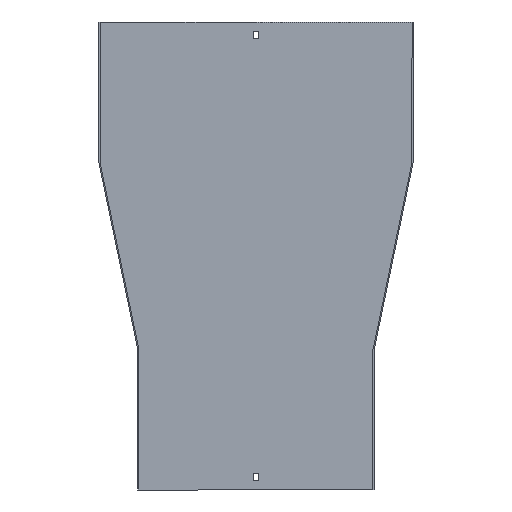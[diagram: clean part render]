
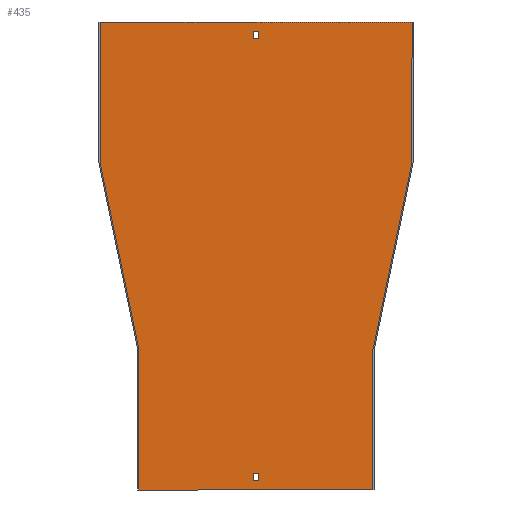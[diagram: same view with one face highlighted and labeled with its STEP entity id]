
A CAD part, front view. The second image highlights one B-rep face of the part: STEP entity #435.
In plain terms, the highlighted planar face has unit normal (0, -1, 0).
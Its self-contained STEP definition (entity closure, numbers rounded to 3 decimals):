
#5 = DIRECTION ( 'NONE',  ( -0.204, 0., 0.979 ) ) ;
#13 = CARTESIAN_POINT ( 'NONE',  ( 0., -1.5, -579. ) ) ;
#34 = EDGE_LOOP ( 'NONE', ( #683, #297, #187, #107, #530, #716, #533, #342 ) ) ;
#37 = EDGE_CURVE ( 'NONE', #273, #144, #723, .T. ) ;
#41 = CARTESIAN_POINT ( 'NONE',  ( 200., -1.5, -180. ) ) ;
#42 = LINE ( 'NONE', #179, #282 ) ;
#46 = VERTEX_POINT ( 'NONE', #265 ) ;
#56 = EDGE_CURVE ( 'NONE', #643, #89, #126, .T. ) ;
#60 = VECTOR ( 'NONE', #5, 1000. ) ;
#62 = CARTESIAN_POINT ( 'NONE',  ( 0., -1.5, -21. ) ) ;
#84 = CARTESIAN_POINT ( 'NONE',  ( -200., -1.5, -179.845 ) ) ;
#87 = DIRECTION ( 'NONE',  ( 0., 0., -1. ) ) ;
#89 = VERTEX_POINT ( 'NONE', #521 ) ;
#92 = CARTESIAN_POINT ( 'NONE',  ( 150.032, -1.5, -419.694 ) ) ;
#95 = LINE ( 'NONE', #41, #141 ) ;
#103 = VECTOR ( 'NONE', #776, 1000. ) ;
#107 = ORIENTED_EDGE ( 'NONE', *, *, #137, .F. ) ;
#111 = EDGE_CURVE ( 'NONE', #842, #273, #713, .T. ) ;
#125 = LINE ( 'NONE', #594, #103 ) ;
#126 = LINE ( 'NONE', #62, #146 ) ;
#128 = EDGE_CURVE ( 'NONE', #136, #825, #414, .T. ) ;
#132 = VERTEX_POINT ( 'NONE', #600 ) ;
#136 = VERTEX_POINT ( 'NONE', #84 ) ;
#137 = EDGE_CURVE ( 'NONE', #46, #411, #475, .T. ) ;
#141 = VECTOR ( 'NONE', #813, 1000. ) ;
#144 = VERTEX_POINT ( 'NONE', #349 ) ;
#146 = VECTOR ( 'NONE', #331, 1000. ) ;
#147 = DIRECTION ( 'NONE',  ( 0., 0., 1. ) ) ;
#148 = CARTESIAN_POINT ( 'NONE',  ( 201.5, -1.5, 0. ) ) ;
#154 = CARTESIAN_POINT ( 'NONE',  ( 200., -1.5, -179.845 ) ) ;
#158 = DIRECTION ( 'NONE',  ( 0., 0., -1. ) ) ;
#163 = CARTESIAN_POINT ( 'NONE',  ( 3.25, -1.5, -588. ) ) ;
#165 = VERTEX_POINT ( 'NONE', #731 ) ;
#168 = LINE ( 'NONE', #92, #230 ) ;
#179 = CARTESIAN_POINT ( 'NONE',  ( 150., -1.5, -600. ) ) ;
#187 = ORIENTED_EDGE ( 'NONE', *, *, #323, .F. ) ;
#211 = VERTEX_POINT ( 'NONE', #607 ) ;
#224 = CARTESIAN_POINT ( 'NONE',  ( -3.25, -1.5, -579. ) ) ;
#230 = VECTOR ( 'NONE', #822, 1000. ) ;
#237 = LINE ( 'NONE', #755, #771 ) ;
#242 = EDGE_CURVE ( 'NONE', #828, #132, #168, .T. ) ;
#261 = DIRECTION ( 'NONE',  ( -1., 0., 0. ) ) ;
#265 = CARTESIAN_POINT ( 'NONE',  ( -150., -1.5, -600. ) ) ;
#273 = VERTEX_POINT ( 'NONE', #163 ) ;
#275 = DIRECTION ( 'NONE',  ( 0., -1., 0. ) ) ;
#282 = VECTOR ( 'NONE', #566, 1000. ) ;
#285 = PLANE ( 'NONE',  #304 ) ;
#297 = ORIENTED_EDGE ( 'NONE', *, *, #128, .F. ) ;
#298 = EDGE_CURVE ( 'NONE', #165, #828, #95, .T. ) ;
#301 = VECTOR ( 'NONE', #415, 1000. ) ;
#304 = AXIS2_PLACEMENT_3D ( 'NONE', #746, #275, #617 ) ;
#323 = EDGE_CURVE ( 'NONE', #411, #136, #544, .T. ) ;
#331 = DIRECTION ( 'NONE',  ( 1., 0., 0. ) ) ;
#332 = ORIENTED_EDGE ( 'NONE', *, *, #56, .F. ) ;
#341 = DIRECTION ( 'NONE',  ( 1., 0., 0. ) ) ;
#342 = ORIENTED_EDGE ( 'NONE', *, *, #298, .F. ) ;
#345 = LINE ( 'NONE', #13, #301 ) ;
#349 = CARTESIAN_POINT ( 'NONE',  ( -3.25, -1.5, -588. ) ) ;
#355 = FACE_BOUND ( 'NONE', #573, .T. ) ;
#357 = EDGE_CURVE ( 'NONE', #825, #165, #547, .T. ) ;
#368 = VECTOR ( 'NONE', #158, 1000. ) ;
#376 = EDGE_LOOP ( 'NONE', ( #561, #379, #668, #416 ) ) ;
#379 = ORIENTED_EDGE ( 'NONE', *, *, #606, .T. ) ;
#391 = VERTEX_POINT ( 'NONE', #810 ) ;
#401 = CARTESIAN_POINT ( 'NONE',  ( -200.032, -1.5, -179.694 ) ) ;
#406 = EDGE_CURVE ( 'NONE', #786, #842, #345, .T. ) ;
#411 = VERTEX_POINT ( 'NONE', #799 ) ;
#414 = LINE ( 'NONE', #676, #808 ) ;
#415 = DIRECTION ( 'NONE',  ( 1., 0., 0. ) ) ;
#416 = ORIENTED_EDGE ( 'NONE', *, *, #111, .T. ) ;
#418 = CARTESIAN_POINT ( 'NONE',  ( -150., -1.5, -420. ) ) ;
#434 = ORIENTED_EDGE ( 'NONE', *, *, #565, .F. ) ;
#435 = ADVANCED_FACE ( 'NONE', ( #355, #612, #667 ), #285, .T. ) ;
#446 = LINE ( 'NONE', #518, #512 ) ;
#450 = CARTESIAN_POINT ( 'NONE',  ( -3.25, -1.5, -21. ) ) ;
#471 = CARTESIAN_POINT ( 'NONE',  ( 3.25, -1.5, 0. ) ) ;
#475 = LINE ( 'NONE', #418, #658 ) ;
#485 = EDGE_CURVE ( 'NONE', #132, #623, #42, .T. ) ;
#494 = DIRECTION ( 'NONE',  ( 0., 0., 1. ) ) ;
#511 = ORIENTED_EDGE ( 'NONE', *, *, #654, .F. ) ;
#512 = VECTOR ( 'NONE', #261, 1000. ) ;
#514 = EDGE_CURVE ( 'NONE', #89, #211, #237, .T. ) ;
#518 = CARTESIAN_POINT ( 'NONE',  ( 0., -1.5, -12. ) ) ;
#519 = DIRECTION ( 'NONE',  ( -1., 0., 0. ) ) ;
#521 = CARTESIAN_POINT ( 'NONE',  ( 3.25, -1.5, -21. ) ) ;
#530 = ORIENTED_EDGE ( 'NONE', *, *, #599, .F. ) ;
#533 = ORIENTED_EDGE ( 'NONE', *, *, #242, .F. ) ;
#538 = VECTOR ( 'NONE', #519, 1000. ) ;
#544 = LINE ( 'NONE', #401, #60 ) ;
#547 = LINE ( 'NONE', #148, #701 ) ;
#561 = ORIENTED_EDGE ( 'NONE', *, *, #37, .T. ) ;
#562 = CARTESIAN_POINT ( 'NONE',  ( 3.25, -1.5, -579. ) ) ;
#563 = VECTOR ( 'NONE', #655, 1000. ) ;
#565 = EDGE_CURVE ( 'NONE', #391, #643, #699, .T. ) ;
#566 = DIRECTION ( 'NONE',  ( 0., 0., -1. ) ) ;
#573 = EDGE_LOOP ( 'NONE', ( #434, #511, #805, #332 ) ) ;
#586 = CARTESIAN_POINT ( 'NONE',  ( 0., -1.5, -588. ) ) ;
#587 = CARTESIAN_POINT ( 'NONE',  ( 150., -1.5, -600. ) ) ;
#590 = CARTESIAN_POINT ( 'NONE',  ( -151.5, -1.5, -600. ) ) ;
#594 = CARTESIAN_POINT ( 'NONE',  ( -3.25, -1.5, 0. ) ) ;
#599 = EDGE_CURVE ( 'NONE', #623, #46, #772, .T. ) ;
#600 = CARTESIAN_POINT ( 'NONE',  ( 150., -1.5, -419.845 ) ) ;
#606 = EDGE_CURVE ( 'NONE', #144, #786, #125, .T. ) ;
#607 = CARTESIAN_POINT ( 'NONE',  ( 3.25, -1.5, -12. ) ) ;
#612 = FACE_OUTER_BOUND ( 'NONE', #34, .T. ) ;
#617 = DIRECTION ( 'NONE',  ( 0., 0., -1. ) ) ;
#623 = VERTEX_POINT ( 'NONE', #587 ) ;
#643 = VERTEX_POINT ( 'NONE', #450 ) ;
#654 = EDGE_CURVE ( 'NONE', #211, #391, #446, .T. ) ;
#655 = DIRECTION ( 'NONE',  ( -1., 0., 0. ) ) ;
#658 = VECTOR ( 'NONE', #809, 1000. ) ;
#667 = FACE_BOUND ( 'NONE', #376, .T. ) ;
#668 = ORIENTED_EDGE ( 'NONE', *, *, #406, .T. ) ;
#676 = CARTESIAN_POINT ( 'NONE',  ( -200., -1.5, 0. ) ) ;
#679 = CARTESIAN_POINT ( 'NONE',  ( -200., -1.5, 0. ) ) ;
#683 = ORIENTED_EDGE ( 'NONE', *, *, #357, .F. ) ;
#699 = LINE ( 'NONE', #704, #368 ) ;
#701 = VECTOR ( 'NONE', #341, 1000. ) ;
#704 = CARTESIAN_POINT ( 'NONE',  ( -3.25, -1.5, 0. ) ) ;
#713 = LINE ( 'NONE', #471, #853 ) ;
#716 = ORIENTED_EDGE ( 'NONE', *, *, #485, .F. ) ;
#723 = LINE ( 'NONE', #586, #538 ) ;
#731 = CARTESIAN_POINT ( 'NONE',  ( 200., -1.5, 0. ) ) ;
#746 = CARTESIAN_POINT ( 'NONE',  ( 0., -1.5, 0. ) ) ;
#755 = CARTESIAN_POINT ( 'NONE',  ( 3.25, -1.5, 0. ) ) ;
#771 = VECTOR ( 'NONE', #494, 1000. ) ;
#772 = LINE ( 'NONE', #590, #563 ) ;
#776 = DIRECTION ( 'NONE',  ( 0., 0., 1. ) ) ;
#786 = VERTEX_POINT ( 'NONE', #224 ) ;
#799 = CARTESIAN_POINT ( 'NONE',  ( -150., -1.5, -419.845 ) ) ;
#805 = ORIENTED_EDGE ( 'NONE', *, *, #514, .F. ) ;
#808 = VECTOR ( 'NONE', #147, 1000. ) ;
#809 = DIRECTION ( 'NONE',  ( 0., 0., 1. ) ) ;
#810 = CARTESIAN_POINT ( 'NONE',  ( -3.25, -1.5, -12. ) ) ;
#813 = DIRECTION ( 'NONE',  ( 0., 0., -1. ) ) ;
#822 = DIRECTION ( 'NONE',  ( -0.204, 0., -0.979 ) ) ;
#825 = VERTEX_POINT ( 'NONE', #679 ) ;
#828 = VERTEX_POINT ( 'NONE', #154 ) ;
#842 = VERTEX_POINT ( 'NONE', #562 ) ;
#853 = VECTOR ( 'NONE', #87, 1000. ) ;
